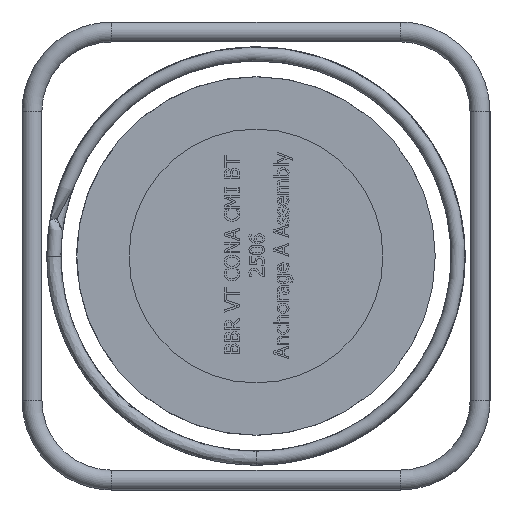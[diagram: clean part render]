
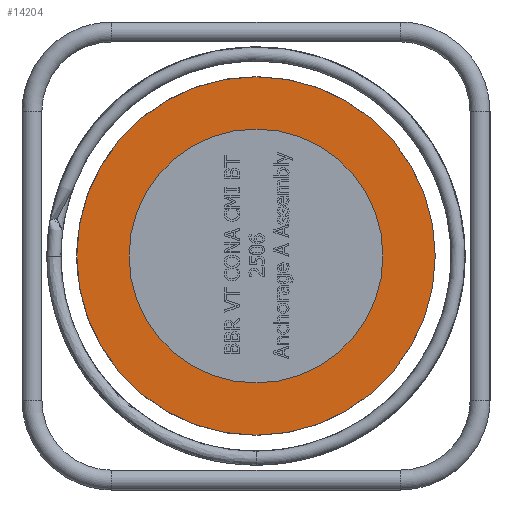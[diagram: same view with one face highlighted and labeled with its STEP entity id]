
A CAD part, left-side view. The second image highlights one B-rep face of the part: STEP entity #14204.
In plain terms, the highlighted planar face has unit normal (-1, 0, 0).
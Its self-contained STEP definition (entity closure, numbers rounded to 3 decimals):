
#3439=PLANE('',#14723);
#3572=FACE_BOUND('',#5174,.T.);
#4315=FACE_OUTER_BOUND('',#5173,.T.);
#5173=EDGE_LOOP('',(#12188));
#5174=EDGE_LOOP('',(#12189));
#5498=CIRCLE('',#14724,180.);
#5499=CIRCLE('',#14725,127.5);
#6783=VERTEX_POINT('',#24716);
#6784=VERTEX_POINT('',#24718);
#8637=EDGE_CURVE('',#6783,#6783,#5498,.T.);
#8638=EDGE_CURVE('',#6784,#6784,#5499,.T.);
#12188=ORIENTED_EDGE('',*,*,#8637,.T.);
#12189=ORIENTED_EDGE('',*,*,#8638,.F.);
#14204=ADVANCED_FACE('',(#4315,#3572),#3439,.T.);
#14723=AXIS2_PLACEMENT_3D('',#24715,#16784,#16785);
#14724=AXIS2_PLACEMENT_3D('',#24717,#16786,#16787);
#14725=AXIS2_PLACEMENT_3D('',#24719,#16788,#16789);
#16784=DIRECTION('center_axis',(-1.,0.,0.));
#16785=DIRECTION('ref_axis',(0.,0.,1.));
#16786=DIRECTION('center_axis',(-1.,0.,0.));
#16787=DIRECTION('ref_axis',(0.,-1.,0.));
#16788=DIRECTION('center_axis',(-1.,0.,0.));
#16789=DIRECTION('ref_axis',(0.,-1.,0.));
#24715=CARTESIAN_POINT('Origin',(0.,-142.25,0.));
#24716=CARTESIAN_POINT('',(0.,-180.,0.));
#24717=CARTESIAN_POINT('Origin',(0.,0.,
0.));
#24718=CARTESIAN_POINT('',(0.,0.,-127.5));
#24719=CARTESIAN_POINT('Origin',(0.,0.,
0.));
